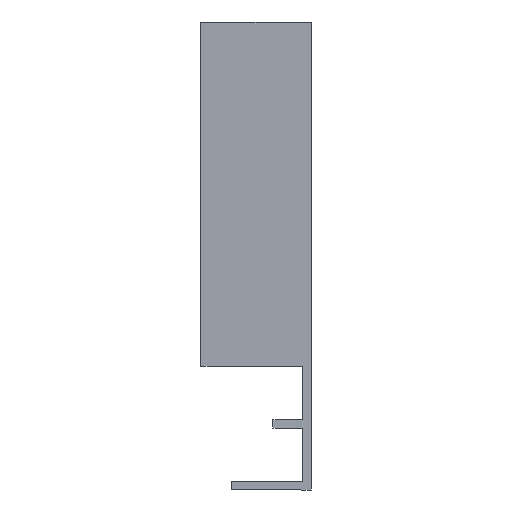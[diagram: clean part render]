
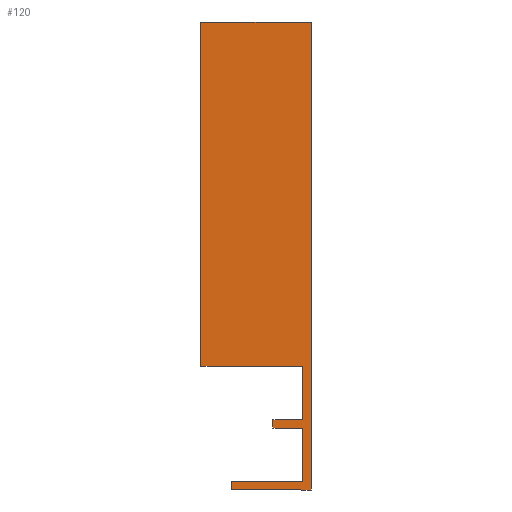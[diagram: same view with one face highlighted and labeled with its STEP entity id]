
A CAD part, left-side view. The second image highlights one B-rep face of the part: STEP entity #120.
In plain terms, the highlighted planar face has unit normal (-1, 0, 0).
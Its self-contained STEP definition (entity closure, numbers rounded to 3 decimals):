
#6 = VERTEX_POINT ( 'NONE', #30 ) ;
#7 = VERTEX_POINT ( 'NONE', #26 ) ;
#18 = VERTEX_POINT ( 'NONE', #87 ) ;
#20 = VERTEX_POINT ( 'NONE', #21 ) ;
#21 = CARTESIAN_POINT ( 'NONE',  ( -311.5, -5.5, 49.7 ) ) ;
#26 = CARTESIAN_POINT ( 'NONE',  ( -311.5, 10.4, 0. ) ) ;
#27 = DIRECTION ( 'NONE',  ( 0., -1., 0. ) ) ;
#28 = DIRECTION ( 'NONE',  ( -1., 0., 0. ) ) ;
#30 = CARTESIAN_POINT ( 'NONE',  ( -311.5, 10.4, 49.7 ) ) ;
#39 = CARTESIAN_POINT ( 'NONE',  ( -311.5, 6., -16.7 ) ) ;
#42 = PLANE ( 'NONE',  #166 ) ;
#66 = CARTESIAN_POINT ( 'NONE',  ( -311.5, -4.3, -8.95 ) ) ;
#68 = CARTESIAN_POINT ( 'NONE',  ( -311.5, 0., -8.95 ) ) ;
#69 = CARTESIAN_POINT ( 'NONE',  ( -311.5, 0., -7.75 ) ) ;
#71 = CARTESIAN_POINT ( 'NONE',  ( -311.5, -4.3, -7.75 ) ) ;
#73 = CARTESIAN_POINT ( 'NONE',  ( -311.5, -4.3, 0. ) ) ;
#79 = CARTESIAN_POINT ( 'NONE',  ( -311.5, -5.5, -17.9 ) ) ;
#81 = CARTESIAN_POINT ( 'NONE',  ( -311.5, 6., -16.7 ) ) ;
#85 = CARTESIAN_POINT ( 'NONE',  ( -311.5, -4.3, -16.7 ) ) ;
#87 = CARTESIAN_POINT ( 'NONE',  ( -311.5, 6., -17.9 ) ) ;
#89 = VERTEX_POINT ( 'NONE', #85 ) ;
#93 = VERTEX_POINT ( 'NONE', #81 ) ;
#95 = VERTEX_POINT ( 'NONE', #79 ) ;
#101 = VERTEX_POINT ( 'NONE', #73 ) ;
#103 = VERTEX_POINT ( 'NONE', #71 ) ;
#105 = VERTEX_POINT ( 'NONE', #69 ) ;
#106 = VERTEX_POINT ( 'NONE', #68 ) ;
#108 = VERTEX_POINT ( 'NONE', #66 ) ;
#120 = ADVANCED_FACE ( 'NONE', ( #347 ), #42, .T. ) ;
#137 = EDGE_CURVE ( 'NONE', #93, #18, #467, .T. ) ;
#140 = EDGE_CURVE ( 'NONE', #20, #6, #477, .T. ) ;
#143 = EDGE_CURVE ( 'NONE', #18, #95, #340, .T. ) ;
#144 = EDGE_CURVE ( 'NONE', #6, #7, #463, .T. ) ;
#147 = EDGE_CURVE ( 'NONE', #101, #103, #334, .T. ) ;
#157 = EDGE_CURVE ( 'NONE', #95, #20, #495, .T. ) ;
#158 = EDGE_CURVE ( 'NONE', #105, #106, #505, .T. ) ;
#161 = EDGE_CURVE ( 'NONE', #103, #105, #504, .T. ) ;
#163 = EDGE_CURVE ( 'NONE', #106, #108, #511, .T. ) ;
#166 = AXIS2_PLACEMENT_3D ( 'NONE', #39, #28, #27 ) ;
#181 = EDGE_CURVE ( 'NONE', #89, #93, #513, .T. ) ;
#193 = EDGE_CURVE ( 'NONE', #7, #101, #537, .T. ) ;
#194 = EDGE_CURVE ( 'NONE', #108, #89, #539, .T. ) ;
#231 = CARTESIAN_POINT ( 'NONE',  ( -311.5, 6., -16.7 ) ) ;
#238 = DIRECTION ( 'NONE',  ( 0., 0., -1. ) ) ;
#241 = CARTESIAN_POINT ( 'NONE',  ( -311.5, -5.5, 49.7 ) ) ;
#243 = DIRECTION ( 'NONE',  ( 0., 1., 0. ) ) ;
#250 = CARTESIAN_POINT ( 'NONE',  ( -311.5, 6., -17.9 ) ) ;
#251 = DIRECTION ( 'NONE',  ( 0., -1., 0. ) ) ;
#252 = CARTESIAN_POINT ( 'NONE',  ( -311.5, 10.4, 49.7 ) ) ;
#253 = DIRECTION ( 'NONE',  ( 0., 0., -1. ) ) ;
#256 = CARTESIAN_POINT ( 'NONE',  ( -311.5, -4.3, 0. ) ) ;
#259 = DIRECTION ( 'NONE',  ( 0., 0., -1. ) ) ;
#266 = CARTESIAN_POINT ( 'NONE',  ( -311.5, -5.5, -17.9 ) ) ;
#274 = DIRECTION ( 'NONE',  ( 0., 0., 1. ) ) ;
#275 = CARTESIAN_POINT ( 'NONE',  ( -311.5, 0., -7.75 ) ) ;
#276 = DIRECTION ( 'NONE',  ( 0., 0., -1. ) ) ;
#283 = CARTESIAN_POINT ( 'NONE',  ( -311.5, -4.3, -7.75 ) ) ;
#284 = DIRECTION ( 'NONE',  ( 0., 1., 0. ) ) ;
#285 = CARTESIAN_POINT ( 'NONE',  ( -311.5, 0., -8.95 ) ) ;
#286 = DIRECTION ( 'NONE',  ( 0., -1., 0. ) ) ;
#287 = CARTESIAN_POINT ( 'NONE',  ( -311.5, -4.3, -16.7 ) ) ;
#288 = DIRECTION ( 'NONE',  ( 0., 1., 0. ) ) ;
#311 = CARTESIAN_POINT ( 'NONE',  ( -311.5, 10.4, 0. ) ) ;
#312 = DIRECTION ( 'NONE',  ( 0., -1., 0. ) ) ;
#313 = CARTESIAN_POINT ( 'NONE',  ( -311.5, -4.3, -8.95 ) ) ;
#314 = DIRECTION ( 'NONE',  ( 0., 0., -1. ) ) ;
#334 = LINE ( 'NONE', #256, #484 ) ;
#340 = LINE ( 'NONE', #250, #341 ) ;
#341 = VECTOR ( 'NONE', #251, 1000. ) ;
#342 = VECTOR ( 'NONE', #243, 1000. ) ;
#347 = FACE_OUTER_BOUND ( 'NONE', #419, .T. ) ;
#369 = ORIENTED_EDGE ( 'NONE', *, *, #144, .T. ) ;
#370 = ORIENTED_EDGE ( 'NONE', *, *, #140, .T. ) ;
#371 = ORIENTED_EDGE ( 'NONE', *, *, #143, .T. ) ;
#372 = ORIENTED_EDGE ( 'NONE', *, *, #157, .T. ) ;
#373 = ORIENTED_EDGE ( 'NONE', *, *, #137, .T. ) ;
#374 = ORIENTED_EDGE ( 'NONE', *, *, #181, .T. ) ;
#375 = ORIENTED_EDGE ( 'NONE', *, *, #193, .T. ) ;
#376 = ORIENTED_EDGE ( 'NONE', *, *, #147, .T. ) ;
#377 = ORIENTED_EDGE ( 'NONE', *, *, #161, .T. ) ;
#378 = ORIENTED_EDGE ( 'NONE', *, *, #158, .T. ) ;
#379 = ORIENTED_EDGE ( 'NONE', *, *, #163, .T. ) ;
#380 = ORIENTED_EDGE ( 'NONE', *, *, #194, .T. ) ;
#419 = EDGE_LOOP ( 'NONE', ( #374, #373, #371, #372, #370, #369, #375, #376, #377, #378, #379, #380 ) ) ;
#463 = LINE ( 'NONE', #252, #479 ) ;
#467 = LINE ( 'NONE', #231, #469 ) ;
#469 = VECTOR ( 'NONE', #238, 1000. ) ;
#477 = LINE ( 'NONE', #241, #342 ) ;
#479 = VECTOR ( 'NONE', #253, 1000. ) ;
#484 = VECTOR ( 'NONE', #259, 1000. ) ;
#495 = LINE ( 'NONE', #266, #503 ) ;
#502 = VECTOR ( 'NONE', #284, 1000. ) ;
#503 = VECTOR ( 'NONE', #274, 1000. ) ;
#504 = LINE ( 'NONE', #283, #502 ) ;
#505 = LINE ( 'NONE', #275, #506 ) ;
#506 = VECTOR ( 'NONE', #276, 1000. ) ;
#511 = LINE ( 'NONE', #285, #512 ) ;
#512 = VECTOR ( 'NONE', #286, 1000. ) ;
#513 = LINE ( 'NONE', #287, #514 ) ;
#514 = VECTOR ( 'NONE', #288, 1000. ) ;
#537 = LINE ( 'NONE', #311, #538 ) ;
#538 = VECTOR ( 'NONE', #312, 1000. ) ;
#539 = LINE ( 'NONE', #313, #540 ) ;
#540 = VECTOR ( 'NONE', #314, 1000. ) ;
